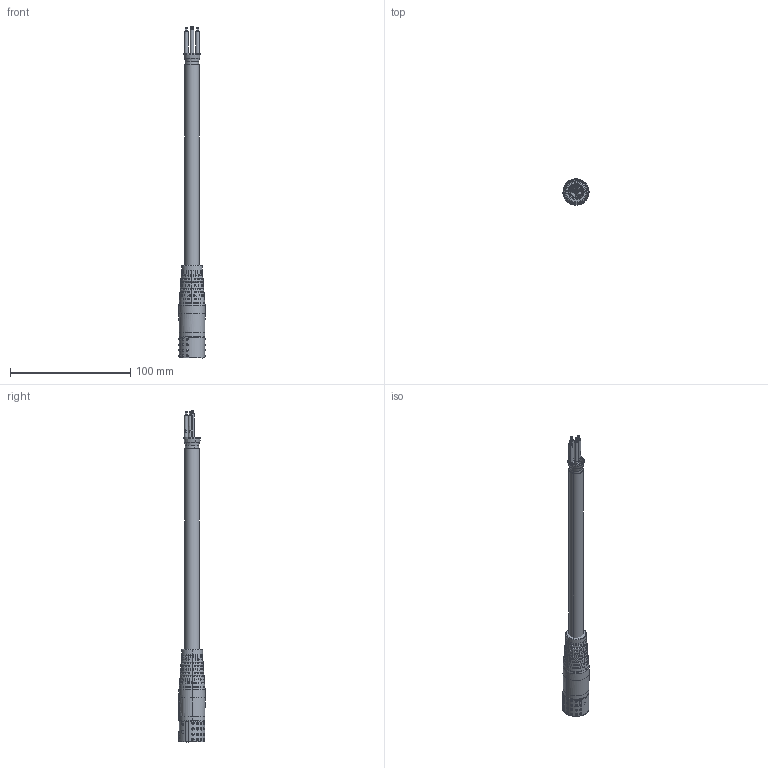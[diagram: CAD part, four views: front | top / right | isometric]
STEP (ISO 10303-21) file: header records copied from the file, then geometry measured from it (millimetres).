
FILE_DESCRIPTION (( 'STEP AP214' ), '1' );
FILE_NAME ('W-TEC 15M GLATT-BU 4x.STEP', '2021-06-29T13:30:45', ( '' ), ( '' ), 'SwSTEP 2.0', 'SolidWorks 2021', '' );
FILE_SCHEMA (( 'AUTOMOTIVE_DESIGN' ));
Length unit declared in the file: millimetre
Products named in the file (1): W-TEC 15M GLATT-BU 4x
Bounding box: 21.76 x 21.83 x 275.65 mm (x, y, z)
Surface area: 19485.9 mm2 (no closed solid volume)
Topology: 0 solids, 6 shells, 1649 faces, 4071 edges, 2652 vertices
Faces by surface type: cylinder 658, plane 527, bspline 417, cone 45, torus 2
Entity records: 92235 total; most frequent: CARTESIAN_POINT 37877, ORIENTED_EDGE 7916, DIRECTION 6860, EDGE_CURVE 4017, AXIS2_PLACEMENT_3D 2804, VERTEX_POINT 2652, EDGE_LOOP 1946, UNCERTAINTY_MEASURE_WITH_UNIT 1652
